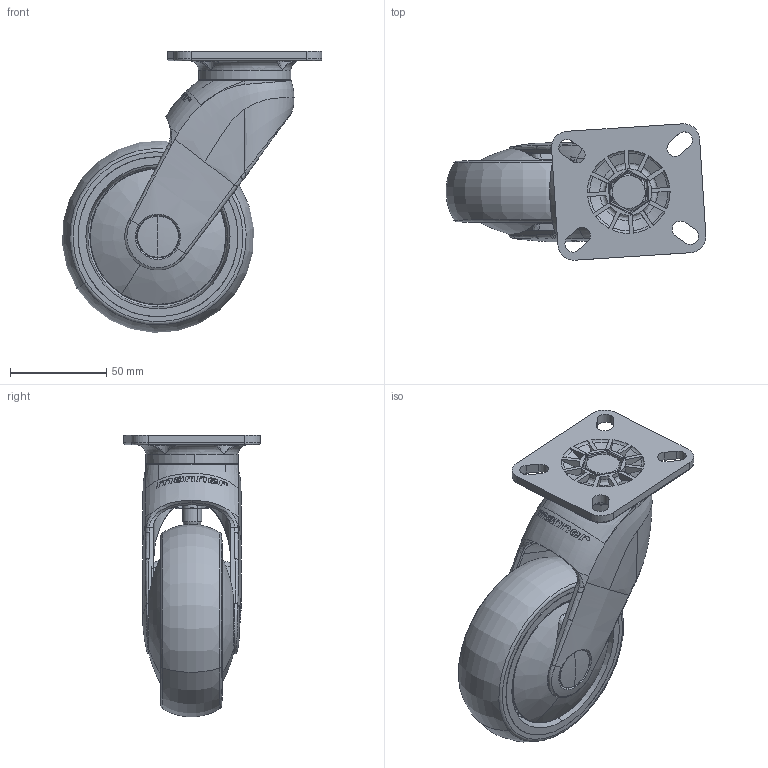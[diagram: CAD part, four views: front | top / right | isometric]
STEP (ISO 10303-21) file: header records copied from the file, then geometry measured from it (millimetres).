
FILE_DESCRIPTION (( 'STEP AP203' ), '1' );
FILE_NAME ('301783_STEP.STEP', '2011-06-21T04:27:53', ( '' ), ( '' ), 'SwSTEP 2.0', 'SolidWorks 2011', '' );
FILE_SCHEMA (( 'CONFIG_CONTROL_DESIGN' ));
Length unit declared in the file: millimetre
Products named in the file (1): 301783_STEP
Bounding box: 134.78 x 70.73 x 146.14 mm (x, y, z)
Surface area: 79875.6 mm2 (no closed solid volume)
Topology: 0 solids, 15 shells, 402 faces, 1889 edges, 1468 vertices
Faces by surface type: bspline 170, plane 88, cylinder 75, cone 50, torus 19
Entity records: 62297 total; most frequent: CARTESIAN_POINT 49996, ORIENTED_EDGE 3354, EDGE_CURVE 1880, VERTEX_POINT 1468, DIRECTION 1305, B_SPLINE_CURVE_WITH_KNOTS 1266, AXIS2_PLACEMENT_3D 516, EDGE_LOOP 440
